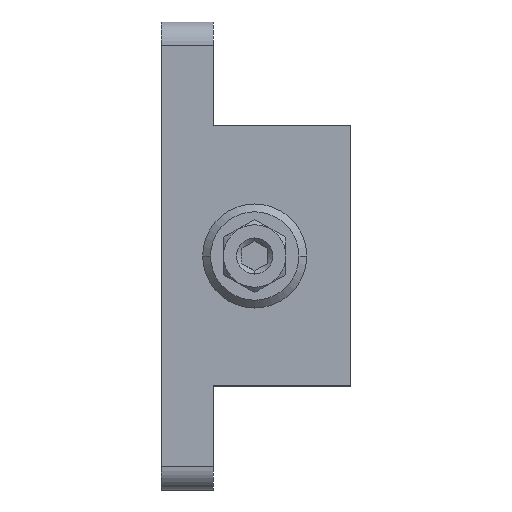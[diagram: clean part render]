
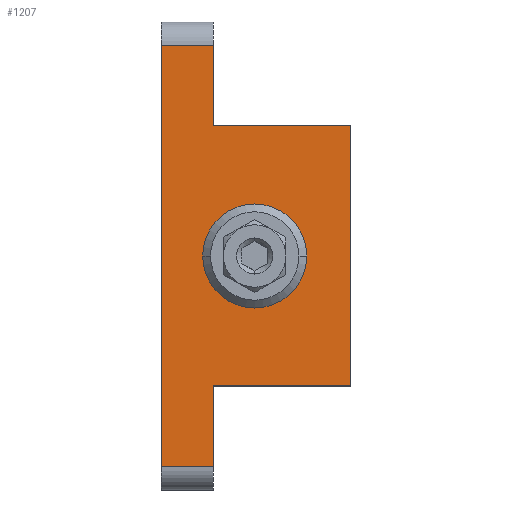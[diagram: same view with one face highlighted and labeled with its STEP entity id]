
A CAD part, left-side view. The second image highlights one B-rep face of the part: STEP entity #1207.
In plain terms, the highlighted planar face has unit normal (-1, 0, 0).
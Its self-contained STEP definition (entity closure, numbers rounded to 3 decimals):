
#39 = LINE ( 'NONE', #1529, #797 ) ;
#42 = LINE ( 'NONE', #443, #1282 ) ;
#95 = VECTOR ( 'NONE', #2313, 1000. ) ;
#111 = LINE ( 'NONE', #1435, #1238 ) ;
#148 = VERTEX_POINT ( 'NONE', #553 ) ;
#191 = CARTESIAN_POINT ( 'NONE',  ( -8., -18.5, -25. ) ) ;
#260 = CARTESIAN_POINT ( 'NONE',  ( -8., 8., -40.5 ) ) ;
#288 = LINE ( 'NONE', #2283, #1833 ) ;
#338 = EDGE_CURVE ( 'NONE', #1532, #648, #2215, .T. ) ;
#364 = VERTEX_POINT ( 'NONE', #949 ) ;
#385 = CARTESIAN_POINT ( 'NONE',  ( -8., 8., 40.5 ) ) ;
#443 = CARTESIAN_POINT ( 'NONE',  ( -8., 8., 40.5 ) ) ;
#444 = VECTOR ( 'NONE', #2723, 1000. ) ;
#461 = ORIENTED_EDGE ( 'NONE', *, *, #338, .F. ) ;
#463 = CARTESIAN_POINT ( 'NONE',  ( -8., -18.5, -25. ) ) ;
#470 = AXIS2_PLACEMENT_3D ( 'NONE', #1131, #510, #1355 ) ;
#478 = DIRECTION ( 'NONE',  ( 0., 0., 1. ) ) ;
#487 = PLANE ( 'NONE',  #470 ) ;
#492 = VERTEX_POINT ( 'NONE', #385 ) ;
#510 = DIRECTION ( 'NONE',  ( -1., 0., 0. ) ) ;
#553 = CARTESIAN_POINT ( 'NONE',  ( -8., -18.5, 25. ) ) ;
#630 = VERTEX_POINT ( 'NONE', #260 ) ;
#648 = VERTEX_POINT ( 'NONE', #1343 ) ;
#794 = LINE ( 'NONE', #2124, #444 ) ;
#797 = VECTOR ( 'NONE', #2450, 1000. ) ;
#844 = ORIENTED_EDGE ( 'NONE', *, *, #2321, .T. ) ;
#850 = ORIENTED_EDGE ( 'NONE', *, *, #1475, .T. ) ;
#908 = LINE ( 'NONE', #2428, #2381 ) ;
#949 = CARTESIAN_POINT ( 'NONE',  ( -8., 18., -40.5 ) ) ;
#958 = FACE_OUTER_BOUND ( 'NONE', #1086, .T. ) ;
#1086 = EDGE_LOOP ( 'NONE', ( #1671, #844, #2396, #461, #2210, #2623, #850, #2561 ) ) ;
#1131 = CARTESIAN_POINT ( 'NONE',  ( -8., 8., 45. ) ) ;
#1187 = EDGE_CURVE ( 'NONE', #492, #2798, #42, .T. ) ;
#1203 = DIRECTION ( 'NONE',  ( 0., 0., -1. ) ) ;
#1207 = ADVANCED_FACE ( 'NONE', ( #958 ), #487, .T. ) ;
#1238 = VECTOR ( 'NONE', #1388, 1000. ) ;
#1282 = VECTOR ( 'NONE', #1530, 1000. ) ;
#1296 = EDGE_CURVE ( 'NONE', #1532, #148, #794, .T. ) ;
#1342 = VERTEX_POINT ( 'NONE', #1692 ) ;
#1343 = CARTESIAN_POINT ( 'NONE',  ( -8., 8., -25. ) ) ;
#1355 = DIRECTION ( 'NONE',  ( 0., 0., 1. ) ) ;
#1388 = DIRECTION ( 'NONE',  ( 0., 1., 0. ) ) ;
#1435 = CARTESIAN_POINT ( 'NONE',  ( -8., -18.5, 25. ) ) ;
#1452 = CARTESIAN_POINT ( 'NONE',  ( -8., 8., -25. ) ) ;
#1475 = EDGE_CURVE ( 'NONE', #1342, #492, #908, .T. ) ;
#1488 = EDGE_CURVE ( 'NONE', #2798, #364, #288, .T. ) ;
#1529 = CARTESIAN_POINT ( 'NONE',  ( -8., 8., -40.5 ) ) ;
#1530 = DIRECTION ( 'NONE',  ( 0., 1., 0. ) ) ;
#1532 = VERTEX_POINT ( 'NONE', #191 ) ;
#1586 = EDGE_CURVE ( 'NONE', #148, #1342, #111, .T. ) ;
#1623 = CARTESIAN_POINT ( 'NONE',  ( -8., 18., 40.5 ) ) ;
#1671 = ORIENTED_EDGE ( 'NONE', *, *, #1488, .T. ) ;
#1692 = CARTESIAN_POINT ( 'NONE',  ( -8., 8., 25. ) ) ;
#1775 = DIRECTION ( 'NONE',  ( 0., 1., 0. ) ) ;
#1820 = VECTOR ( 'NONE', #1775, 1000. ) ;
#1833 = VECTOR ( 'NONE', #1203, 1000. ) ;
#1892 = EDGE_CURVE ( 'NONE', #648, #630, #2766, .T. ) ;
#2124 = CARTESIAN_POINT ( 'NONE',  ( -8., -18.5, -25. ) ) ;
#2210 = ORIENTED_EDGE ( 'NONE', *, *, #1296, .T. ) ;
#2215 = LINE ( 'NONE', #463, #1820 ) ;
#2283 = CARTESIAN_POINT ( 'NONE',  ( -8., 18., 45. ) ) ;
#2313 = DIRECTION ( 'NONE',  ( 0., 0., -1. ) ) ;
#2321 = EDGE_CURVE ( 'NONE', #364, #630, #39, .T. ) ;
#2381 = VECTOR ( 'NONE', #478, 1000. ) ;
#2396 = ORIENTED_EDGE ( 'NONE', *, *, #1892, .F. ) ;
#2428 = CARTESIAN_POINT ( 'NONE',  ( -8., 8., 25. ) ) ;
#2450 = DIRECTION ( 'NONE',  ( 0., -1., 0. ) ) ;
#2561 = ORIENTED_EDGE ( 'NONE', *, *, #1187, .T. ) ;
#2623 = ORIENTED_EDGE ( 'NONE', *, *, #1586, .T. ) ;
#2723 = DIRECTION ( 'NONE',  ( 0., 0., 1. ) ) ;
#2766 = LINE ( 'NONE', #1452, #95 ) ;
#2798 = VERTEX_POINT ( 'NONE', #1623 ) ;
